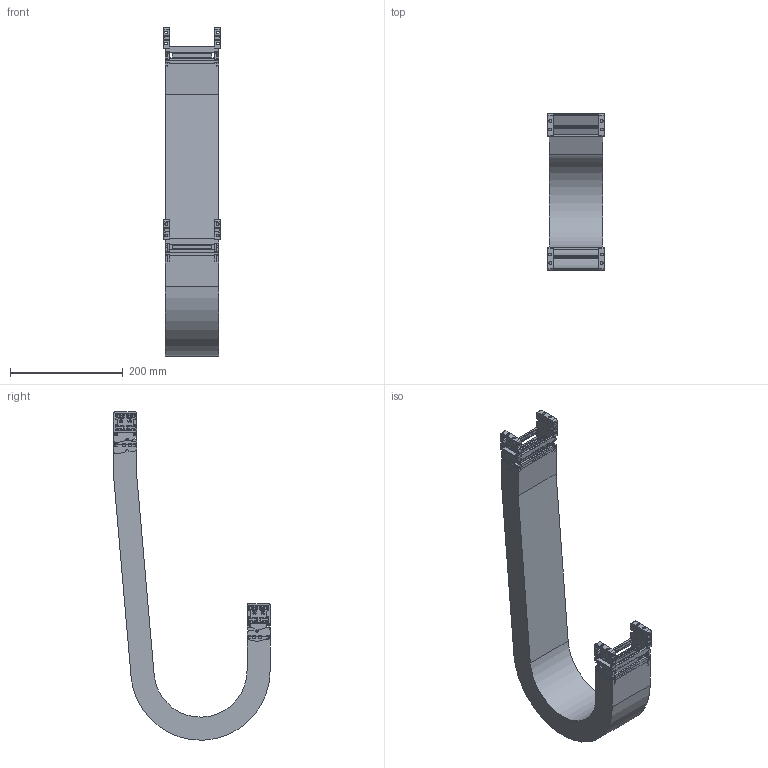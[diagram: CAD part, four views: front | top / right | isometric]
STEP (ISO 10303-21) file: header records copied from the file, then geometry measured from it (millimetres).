
FILE_DESCRIPTION((''),'2;1');
FILE_NAME('KST-30080-100_ASM','2017-12-06T',('KUNI004K'),(''),'PRO/ENGINEER BY PARAMETRIC TECHNOLOGY CORPORATION, 2015200','PRO/ENGINEER BY PARAMETRIC TECHNOLOGY CORPORATION, 2015200','');
FILE_SCHEMA(('AUTOMOTIVE_DESIGN { 1 0 10303 214 1 1 1 1 }'));
Length unit declared in the file: millimetre
Products named in the file (13): 30FBR; 30FBL; 25080C; 30FB_W080_ASM; 30100R; 30100L; 25080H; KST30080-100_1_ASM; KST30080_R100_BODY; 30MBR; 30MBL; 30MB_W080_ASM; KST-30080-100_ASM
Assembly tree (19 placements, depth 3):
  KST-30080-100_ASM
    30FB_W080_ASM
      30FBR
      30FBL
      25080C  x2
    KST30080-100_1_ASM  x2
      30100R
      30100L
      25080C
      25080H
    KST30080_R100_BODY
    30MB_W080_ASM
      30MBR
      30MBL
      25080C  x2
Bounding box: 100 x 277 x 582.18 mm (x, y, z)
Volume: 1252680.8 mm3; surface area: 595917.6 mm2
Topology: 21 solids, 21 shells, 2716 faces, 7502 edges, 4848 vertices
Faces by surface type: plane 1410, cylinder 962, bspline 216, torus 64, sphere 64
Entity records: 71904 total; most frequent: CARTESIAN_POINT 15078, ORIENTED_EDGE 7696, DIRECTION 6858, PRESENTATION_STYLE_ASSIGNMENT 5220, STYLED_ITEM 5220, CURVE_STYLE 3848, EDGE_CURVE 3848, VERTEX_POINT 2512
